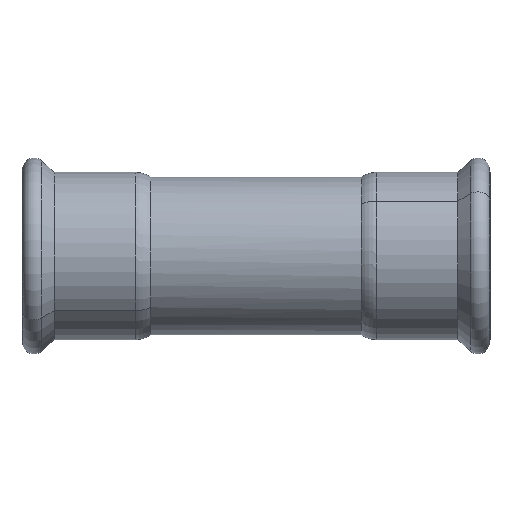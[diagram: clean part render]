
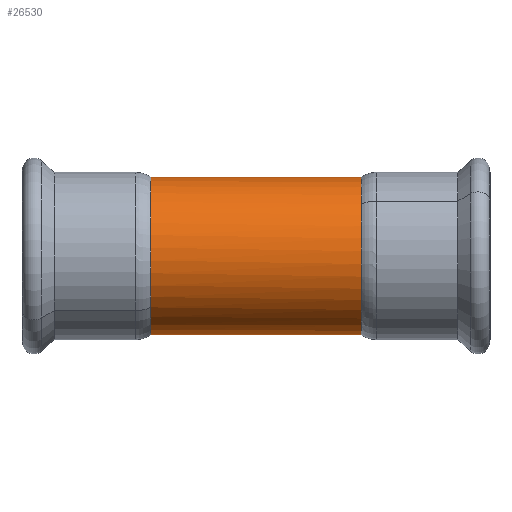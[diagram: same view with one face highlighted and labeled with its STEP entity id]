
A CAD part, top view. The second image highlights one B-rep face of the part: STEP entity #26530.
In plain terms, the highlighted cylindrical face has radius 33.35 mm (diameter 66.7 mm), a partial arc.
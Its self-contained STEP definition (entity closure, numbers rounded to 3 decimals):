
#20570=CARTESIAN_POINT('',(-85.6,0.,0.));
#20580=DIRECTION('',(-1.,0.,0.));
#20590=DIRECTION('',(0.,0.654,
-0.757));
#20600=AXIS2_PLACEMENT_3D('',#20570,#20580,#20590);
#20610=CIRCLE('',#20600,33.35);
#20620=CARTESIAN_POINT('',(-85.6,33.35,0.));
#20630=VERTEX_POINT('',#20620);
#20660=CARTESIAN_POINT('',(-85.6,-21.804,25.235));
#20670=VERTEX_POINT('',#20660);
#20680=EDGE_CURVE('',#20670,#20630,#20610,.T.);
#26000=CARTESIAN_POINT('',(-85.6,-33.35,0.));
#26010=VERTEX_POINT('',#26000);
#26020=EDGE_CURVE('',#26010,#20670,#20610,.T.);
#26170=CARTESIAN_POINT('',(5.,0.,0.));
#26180=DIRECTION('',(1.,0.,0.));
#26190=DIRECTION('',(0.,1.,0.));
#26200=AXIS2_PLACEMENT_3D('',#26170,#26180,#26190);
#26210=CYLINDRICAL_SURFACE('',#26200,33.35);
#26220=CARTESIAN_POINT('',(5.,33.35,0.));
#26230=DIRECTION('',(1.,0.,0.));
#26240=VECTOR('',#26230,1.);
#26250=LINE('',#26220,#26240);
#26260=CARTESIAN_POINT('',(3.4,33.35,0.));
#26270=VERTEX_POINT('',#26260);
#26280=EDGE_CURVE('',#20630,#26270,#26250,.T.);
#26290=ORIENTED_EDGE('',*,*,#26280,.F.);
#26300=CARTESIAN_POINT('',(3.4,0.,0.));
#26310=DIRECTION('',(1.,0.,0.));
#26320=DIRECTION('',(0.,-0.654,
-0.757));
#26330=AXIS2_PLACEMENT_3D('',#26300,#26310,#26320);
#26340=CIRCLE('',#26330,33.35);
#26350=CARTESIAN_POINT('',(3.4,21.804,
25.235));
#26360=VERTEX_POINT('',#26350);
#26370=EDGE_CURVE('',#26270,#26360,#26340,.T.);
#26380=ORIENTED_EDGE('',*,*,#26370,.F.);
#26390=CARTESIAN_POINT('',(3.4,-33.35,0.)
);
#26400=VERTEX_POINT('',#26390);
#26410=EDGE_CURVE('',#26360,#26400,#26340,.T.);
#26420=ORIENTED_EDGE('',*,*,#26410,.F.);
#26430=CARTESIAN_POINT('',(5.,-33.35,0.));
#26440=DIRECTION('',(1.,0.,0.));
#26450=VECTOR('',#26440,1.);
#26460=LINE('',#26430,#26450);
#26470=EDGE_CURVE('',#26010,#26400,#26460,.T.);
#26480=ORIENTED_EDGE('',*,*,#26470,.T.);
#26490=ORIENTED_EDGE('',*,*,#26020,.F.);
#26500=ORIENTED_EDGE('',*,*,#20680,.F.);
#26510=EDGE_LOOP('',(#26500,#26490,#26480,#26420,#26380,#26290));
#26520=FACE_OUTER_BOUND('',#26510,.T.);
#26530=ADVANCED_FACE('',(#26520),#26210,.T.);
